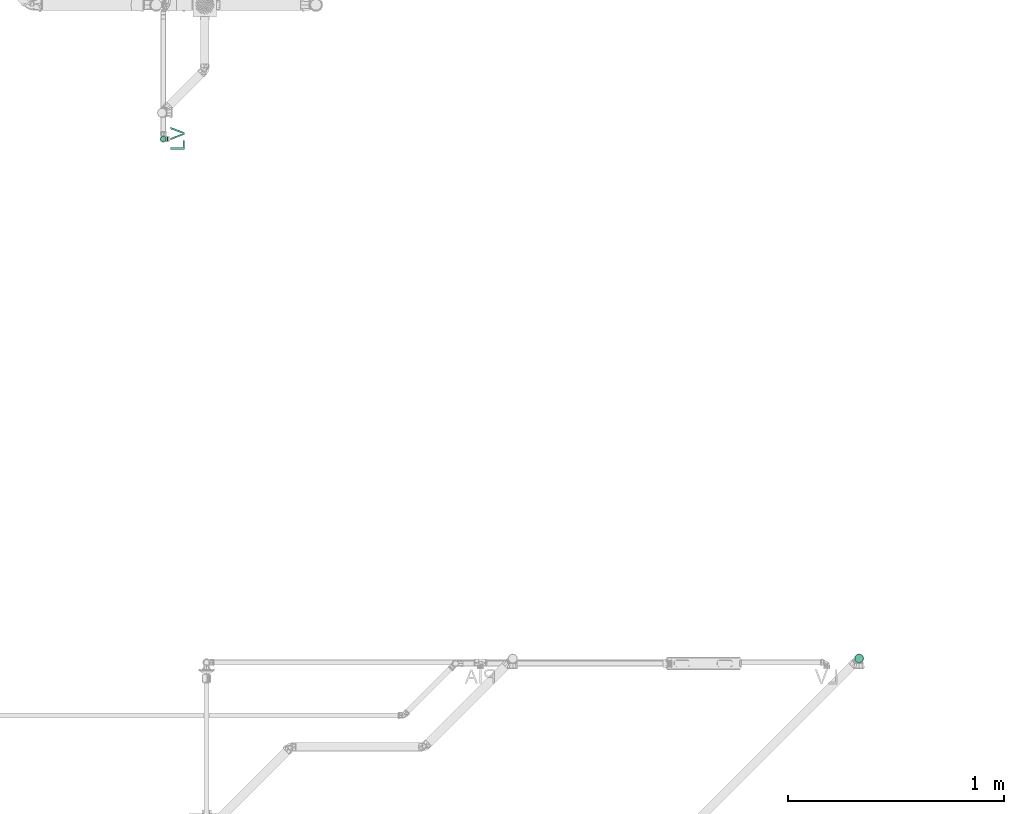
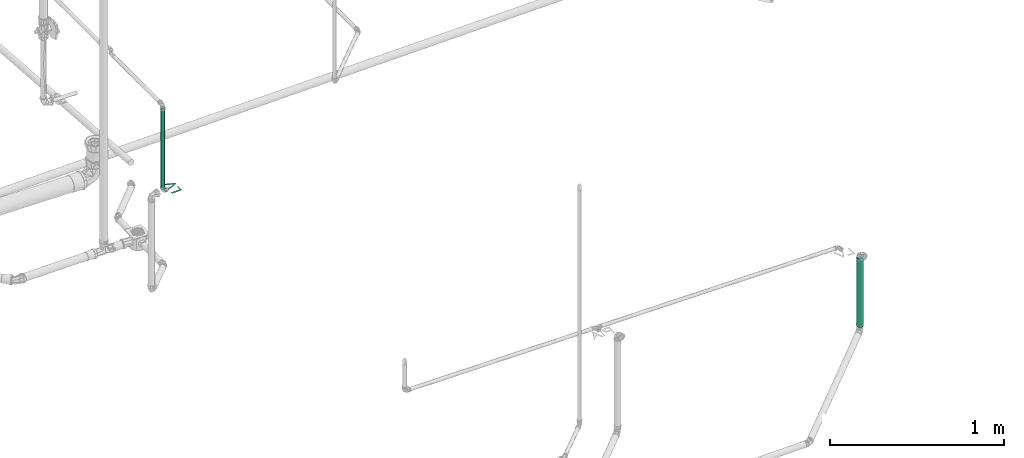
# One storey, part 75 of 589: 2 flow segments, 1 flow terminal.
"""IFC2X3 building model written with IfcOpenShell, lengths in millimetres."""

from ifc_helpers import new_model, entity, si_unit, converted_unit, derived_unit, direction, frame, origin, origin_2d_with_axis, place, context, subcontext, project, spatial, circle, extrude, face_set, surface_model, source, transform, mapped, material, type_object, type_shapes, element, save


model = new_model("IFC2X3")

# Units and contexts
model_context = context("Model", 3, precision=0.01, world=origin(), true_north=direction((6.123031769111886e-17, 1.0)))
body_context = subcontext(model_context, "Body", "Model", "MODEL_VIEW")
ifc_project = project(units=[si_unit("LENGTHUNIT", "METRE", prefix="MILLI"), si_unit("AREAUNIT", "SQUARE_METRE"), si_unit("VOLUMEUNIT", "CUBIC_METRE"), converted_unit("PLANEANGLEUNIT", "DEGREE", entity("IfcRatioMeasure", 0.017453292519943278), si_unit("PLANEANGLEUNIT", "RADIAN"), dimensions=[0, 0, 0, 0, 0, 0, 0]), si_unit("MASSUNIT", "GRAM", prefix="KILO"), derived_unit("MASSDENSITYUNIT", [(si_unit("MASSUNIT", "GRAM", prefix="KILO"), 1), (si_unit("LENGTHUNIT", "METRE"), -3)]), derived_unit("IONCONCENTRATIONUNIT", [(si_unit("MASSUNIT", "GRAM", prefix="KILO"), 1), (si_unit("LENGTHUNIT", "METRE"), -3)]), derived_unit("MOMENTOFINERTIAUNIT", [(si_unit("LENGTHUNIT", "METRE"), 4)]), si_unit("TIMEUNIT", "SECOND"), si_unit("FREQUENCYUNIT", "HERTZ"), si_unit("THERMODYNAMICTEMPERATUREUNIT", "DEGREE_CELSIUS"), derived_unit("THERMALTRANSMITTANCEUNIT", [(si_unit("MASSUNIT", "GRAM", prefix="KILO"), 1), (si_unit("THERMODYNAMICTEMPERATUREUNIT", "KELVIN"), -1), (si_unit("TIMEUNIT", "SECOND"), -3)]), derived_unit("THERMALCONDUCTANCEUNIT", [(si_unit("MASSUNIT", "GRAM", prefix="KILO"), 1), (si_unit("THERMODYNAMICTEMPERATUREUNIT", "KELVIN"), -1), (si_unit("TIMEUNIT", "SECOND"), -3), (si_unit("LENGTHUNIT", "METRE"), 1)]), derived_unit("VOLUMETRICFLOWRATEUNIT", [(si_unit("LENGTHUNIT", "METRE"), 3), (si_unit("TIMEUNIT", "SECOND"), -1)]), derived_unit("MASSFLOWRATEUNIT", [(si_unit("MASSUNIT", "GRAM", prefix="KILO"), 1), (si_unit("TIMEUNIT", "SECOND"), -1)]), derived_unit("ROTATIONALFREQUENCYUNIT", [(si_unit("TIMEUNIT", "SECOND"), -1)]), si_unit("ELECTRICCURRENTUNIT", "AMPERE"), si_unit("ELECTRICVOLTAGEUNIT", "VOLT"), si_unit("POWERUNIT", "WATT"), si_unit("FORCEUNIT", "NEWTON", prefix="KILO"), si_unit("ILLUMINANCEUNIT", "LUX"), si_unit("LUMINOUSFLUXUNIT", "LUMEN"), si_unit("LUMINOUSINTENSITYUNIT", "CANDELA"), derived_unit("USERDEFINED", [(si_unit("MASSUNIT", "GRAM", prefix="KILO"), -1), (si_unit("LENGTHUNIT", "METRE"), -2), (si_unit("TIMEUNIT", "SECOND"), 3), (si_unit("LUMINOUSFLUXUNIT", "LUMEN"), 1)]), derived_unit("USERDEFINED", [(si_unit("MASSUNIT", "GRAM", prefix="KILO"), 1), (si_unit("TIMEUNIT", "SECOND"), -3), (si_unit("LENGTHUNIT", "METRE"), 3), (si_unit("ELECTRICCURRENTUNIT", "AMPERE"), -2)]), derived_unit("SOUNDPOWERUNIT", [(si_unit("MASSUNIT", "GRAM", prefix="KILO"), 1), (si_unit("TIMEUNIT", "SECOND"), -3), (si_unit("LENGTHUNIT", "METRE"), 2)]), derived_unit("SOUNDPRESSUREUNIT", [(si_unit("MASSUNIT", "GRAM", prefix="KILO"), 1), (si_unit("LENGTHUNIT", "METRE"), -1), (si_unit("TIMEUNIT", "SECOND"), -2)]), derived_unit("LINEARVELOCITYUNIT", [(si_unit("LENGTHUNIT", "METRE"), 1), (si_unit("TIMEUNIT", "SECOND"), -1)]), si_unit("PRESSUREUNIT", "PASCAL"), derived_unit("USERDEFINED", [(si_unit("MASSUNIT", "GRAM", prefix="KILO"), 1), (si_unit("LENGTHUNIT", "METRE"), -2), (si_unit("TIMEUNIT", "SECOND"), -2)]), derived_unit("LINEARFORCEUNIT", [(si_unit("MASSUNIT", "GRAM", prefix="KILO"), 1), (si_unit("TIMEUNIT", "SECOND"), -2)]), derived_unit("PLANARFORCEUNIT", [(si_unit("MASSUNIT", "GRAM", prefix="KILO"), 1), (si_unit("LENGTHUNIT", "METRE"), -1), (si_unit("TIMEUNIT", "SECOND"), -2)]), derived_unit("SPECIFICHEATCAPACITYUNIT", [(si_unit("THERMODYNAMICTEMPERATUREUNIT", "KELVIN"), -1), (si_unit("LENGTHUNIT", "METRE"), 2), (si_unit("TIMEUNIT", "SECOND"), -2)]), derived_unit("HEATINGVALUEUNIT", [(si_unit("LENGTHUNIT", "METRE"), 2), (si_unit("TIMEUNIT", "SECOND"), -2)]), derived_unit("VAPORPERMEABILITYUNIT", [(si_unit("LENGTHUNIT", "METRE"), -1), (si_unit("TIMEUNIT", "SECOND"), 1)]), derived_unit("DYNAMICVISCOSITYUNIT", [(si_unit("MASSUNIT", "GRAM", prefix="KILO"), 1), (si_unit("TIMEUNIT", "SECOND"), -1), (si_unit("LENGTHUNIT", "METRE"), -1)]), derived_unit("THERMALEXPANSIONCOEFFICIENTUNIT", [(si_unit("THERMODYNAMICTEMPERATUREUNIT", "KELVIN"), -1)]), derived_unit("MODULUSOFELASTICITYUNIT", [(si_unit("MASSUNIT", "GRAM", prefix="KILO"), 1), (si_unit("LENGTHUNIT", "METRE"), -1), (si_unit("TIMEUNIT", "SECOND"), -2)]), derived_unit("ISOTHERMALMOISTURECAPACITYUNIT", [(si_unit("LENGTHUNIT", "METRE"), 3), (si_unit("MASSUNIT", "GRAM", prefix="KILO"), -1)]), derived_unit("MOISTUREDIFFUSIVITYUNIT", [(si_unit("TIMEUNIT", "SECOND"), -1), (si_unit("LENGTHUNIT", "METRE"), 2)])], contexts=[model_context])

# Site, building, storey
site_placement = place(None, origin())
site = spatial("IfcSite", under=ifc_project, at=site_placement, Name="Default", CompositionType="ELEMENT")
building_placement = place(site_placement, origin())
building = spatial("IfcBuilding", under=site, at=building_placement, CompositionType="ELEMENT")
storey_placement = place(building_placement, frame((0.0, 0.0, 100.0)))
storey = spatial("IfcBuildingStorey", under=building, at=storey_placement, Name="TÉRREO", CompositionType="ELEMENT", Elevation=100.0)

# Flow segments
pipe_segment_type_1 = type_object("IfcPipeSegmentType", Name="Tipos de tubos:PVC Esgoto Série Normal", PredefinedType="NOTDEFINED")
flow_segment_1_placement = place(storey_placement, origin())
element("IfcFlowSegment", 1, at=flow_segment_1_placement, inside=storey, type_object=pipe_segment_type_1, Name="Tipos de tubos:PVC Esgoto Série Normal", ObjectType="Tipos de tubos:PVC Esgoto Série Normal", context=body_context, shape_type="SweptSolid", body=[
    extrude(circle(Radius=20.0, at=origin_2d_with_axis()), frame((-4338.472772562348, -4304.258391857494, -12.329194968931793)), (0.0, 0.0, 1.0), 485.5291950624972),
])
pipe_segment_type_2 = type_object("IfcPipeSegmentType", Name="Tipos de tubos:PVC Marrom Soldável", PredefinedType="NOTDEFINED")
flow_segment_2_placement = place(storey_placement, origin())
element("IfcFlowSegment", 2, at=flow_segment_2_placement, inside=storey, type_object=pipe_segment_type_2, Name="Tipos de tubos:PVC Marrom Soldável", ObjectType="Tipos de tubos:PVC Marrom Soldável", context=body_context, shape_type="SweptSolid", body=[
    extrude(circle(Radius=12.5, at=origin_2d_with_axis()), frame((-7562.714972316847, -1896.6798231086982, 616.3000000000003), z_axis=(0.0, 0.0, 1.0), x_axis=(-1.0, 0.0, 0.0)), (0.0, 0.0, 1.0), 568.2999999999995),
])

# Flow terminal
ifc_material = material(Name="<Unnamed>")
distribution_element_type = type_object("IfcDistributionElementType", Name="Hidráulica_Ponto de Utilização_Uso Provável_Rodrigo MEP:Lavatório LV (Peso 0,3) 60cm do Piso", material=ifc_material)
shared_shape = source(origin(), body_context, "Body", "SurfaceModel", [
    surface_model("IfcFaceBasedSurfaceModel", [(0.0, 0.0, 11.595272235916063), (40.81037599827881, 0.0, 11.595272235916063), (40.81037599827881, 8.162075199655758, 11.595272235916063), (8.162075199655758, 8.162075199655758, 11.595272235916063), (8.162075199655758, 65.2966015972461, 11.595272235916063), (0.0, 65.2966015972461, 11.595272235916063), (69.281989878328, 0.0, 11.595272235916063), (77.71507148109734, 0.0, 11.595272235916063), (102.59983590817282, 65.2966015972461, 11.595272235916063), (93.86386479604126, 65.2966015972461, 11.595272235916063), (76.4238056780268, 18.253078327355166, 11.595272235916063), (72.94854709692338, 7.651945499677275, 11.595272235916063), (69.42546385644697, 18.253078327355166, 11.595272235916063), (52.03322939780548, 65.2966015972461, 11.595272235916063), (43.29725828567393, 65.2966015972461, 11.595272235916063), (37.95219179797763, 78.06704158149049, 11.595272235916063), (38.292933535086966, 78.06704158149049, 14.18346268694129), (39.291937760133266, 78.06704158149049, 16.595272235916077), (40.88112398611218, 78.06704158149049, 18.666340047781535), (42.95219179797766, 78.06704158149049, 20.255526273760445), (45.36400134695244, 78.06704158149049, 21.254530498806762), (47.952191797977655, 78.06704158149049, 21.59527223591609), (50.54038224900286, 78.06704158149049, 21.254530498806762), (52.95219179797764, 78.06704158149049, 20.255526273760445), (55.023259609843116, 78.06704158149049, 18.666340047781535), (56.61244583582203, 78.06704158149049, 16.595272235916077), (57.61145006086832, 78.06704158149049, 14.18346268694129), (57.95219179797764, 78.06704158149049, 11.595272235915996), (57.6114500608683, 78.06704158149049, 9.007081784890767), (56.612445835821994, 78.06704158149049, 6.595272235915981), (55.02325960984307, 78.06704158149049, 4.524204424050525), (52.95219179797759, 78.06704158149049, 2.9350181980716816), (50.540382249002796, 78.06704158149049, 1.936013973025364), (47.95219179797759, 78.06704158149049, 1.5952722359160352), (45.36400134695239, 78.06704158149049, 1.936013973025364), (42.952191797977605, 78.06704158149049, 2.9350181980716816), (40.88112398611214, 78.06704158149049, 4.524204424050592), (39.29193776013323, 78.06704158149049, 6.595272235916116), (38.292933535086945, 78.06704158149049, 9.007081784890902), (37.95219179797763, 83.06704158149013, 11.595272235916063), (38.292933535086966, 83.06704158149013, 14.18346268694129), (39.291937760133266, 83.06704158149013, 16.595272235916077), (40.88112398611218, 83.06704158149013, 18.666340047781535), (42.95219179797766, 83.06704158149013, 20.255526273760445), (45.36400134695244, 83.06704158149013, 21.254530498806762), (47.952191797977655, 83.06704158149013, 21.59527223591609), (50.54038224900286, 83.06704158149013, 21.254530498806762), (52.95219179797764, 83.06704158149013, 20.255526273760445), (55.023259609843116, 83.06704158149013, 18.666340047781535), (56.61244583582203, 83.06704158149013, 16.595272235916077), (57.61145006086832, 83.06704158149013, 14.18346268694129), (57.95219179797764, 83.06704158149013, 11.595272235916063), (57.6114500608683, 83.06704158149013, 9.007081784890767), (56.612445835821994, 83.06704158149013, 6.595272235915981), (55.02325960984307, 83.06704158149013, 4.524204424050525), (52.95219179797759, 83.06704158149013, 2.9350181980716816), (50.540382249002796, 83.06704158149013, 1.936013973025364), (47.95219179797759, 83.06704158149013, 1.5952722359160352), (45.36400134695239, 83.06704158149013, 1.936013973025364), (42.952191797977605, 83.06704158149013, 2.9350181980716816), (40.88112398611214, 83.06704158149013, 4.524204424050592), (39.29193776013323, 83.06704158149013, 6.595272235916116), (38.292933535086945, 83.06704158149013, 9.007081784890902)], [face_set([[[0, 1, 2, 3, 4, 5]], [[6, 7, 8, 9, 10, 11, 12, 13, 14]]]), face_set([[[15, 16, 17, 18, 19, 20, 21, 22, 23, 24, 25, 26, 27, 28, 29, 30, 31, 32, 33, 34, 35, 36, 37, 38]], [[39, 40, 41, 42, 43, 44, 45, 46, 47, 48, 49, 50, 51, 52, 53, 54, 55, 56, 57, 58, 59, 60, 61, 62]], [[39, 62, 38, 15]], [[62, 61, 37, 38]], [[60, 59, 35, 36]], [[61, 60, 36, 37]], [[59, 58, 34, 35]], [[33, 34, 58, 57]], [[57, 56, 32, 33]], [[56, 55, 31, 32]], [[54, 53, 29, 30]], [[55, 54, 30, 31]], [[53, 52, 28, 29]], [[27, 28, 52, 51]], [[51, 50, 26, 27]], [[50, 49, 25, 26]], [[48, 47, 23, 24]], [[49, 48, 24, 25]], [[47, 46, 22, 23]], [[21, 22, 46, 45]], [[45, 44, 20, 21]], [[44, 43, 19, 20]], [[42, 41, 17, 18]], [[43, 42, 18, 19]], [[41, 40, 16, 17]], [[15, 16, 40, 39]]])]),
])
type_shapes(distribution_element_type, [shared_shape])
flow_terminal_placement = place(storey_placement, frame((-7463.347930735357, -1944.6320149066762, 588.4047277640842), z_axis=(0.0, 0.0, 1.0), x_axis=(0.0, 1.0, 0.0)))
element("IfcFlowTerminal", 3, at=flow_terminal_placement, inside=storey, type_object=distribution_element_type, material=ifc_material, Name="Hidráulica_Ponto de Utilização_Uso Provável_Rodrigo MEP:Lavatório LV (Peso 0,3) 60cm do Piso", ObjectType="Hidráulica_Ponto de Utilização_Uso Provável_Rodrigo MEP:Lavatório LV (Peso 0,3) 60cm do Piso", context=body_context, shape_type="MappedRepresentation", body=[
    mapped(shared_shape, transform((0.0, 0.0, 0.0), scale=1.0)),
])

save(model, "model.ifc")
